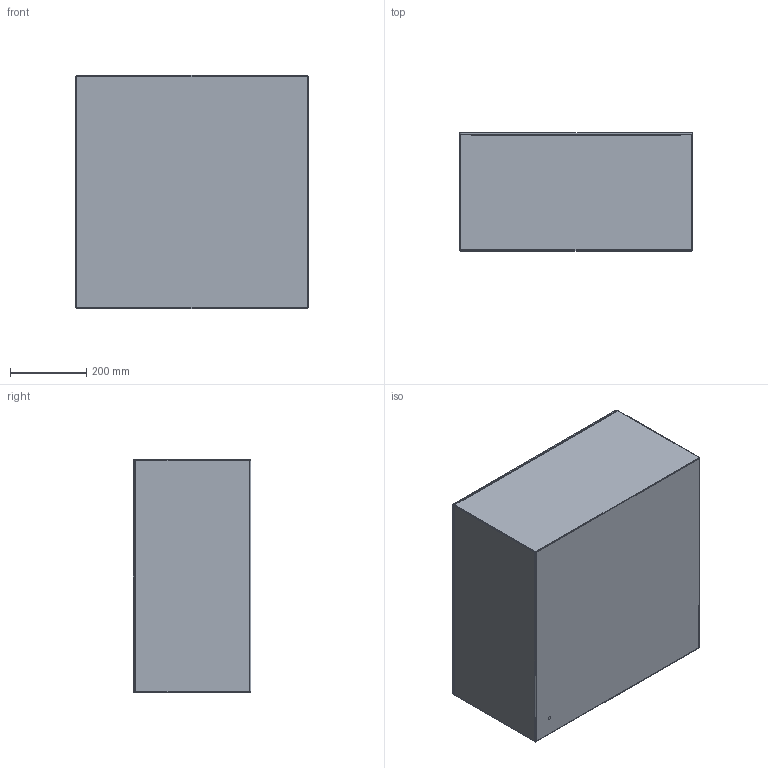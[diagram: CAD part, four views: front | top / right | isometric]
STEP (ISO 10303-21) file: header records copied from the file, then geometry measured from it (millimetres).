
FILE_DESCRIPTION((''),'2;1');
FILE_NAME('D:\scratch\ideas\scvr_assy_242412.stp', '2006-03-16T08:06:03',('User'),('SDRC'),'I-DEAS Master Series 9','UNIX', 'Yes');
FILE_SCHEMA(('AUTOMOTIVE_DESIGN { 1 0 10303 214 0 1 1 1 }'));
Length unit declared in the file: inch
Products named in the file (6): a242412gsc; scvr_wmt_body_24x24x12; scvr_end_2412; scvr_body_242412; 32132001; scvr_cover_2412
Assembly tree (6 placements, depth 3):
  a242412gsc
    scvr_wmt_body_24x24x12
      scvr_end_2412  x2
      scvr_body_242412
      32132001
    scvr_cover_2412
Bounding box: 609.6 x 308.05 x 609.75 mm (x, y, z)
Volume: 3326111.1 mm3; surface area: 3082984.1 mm2
Topology: 5 solids, 5 shells, 129 faces, 395 edges, 318 vertices
Faces by surface type: bspline 129
Entity records: 4151 total; most frequent: CARTESIAN_POINT 2040, ORIENTED_EDGE 572, EDGE_CURVE 286, QUASI_UNIFORM_CURVE 193, VERTEX_POINT 190, EDGE_LOOP 150, FACE_OUTER_BOUND 105, ADVANCED_FACE 105
